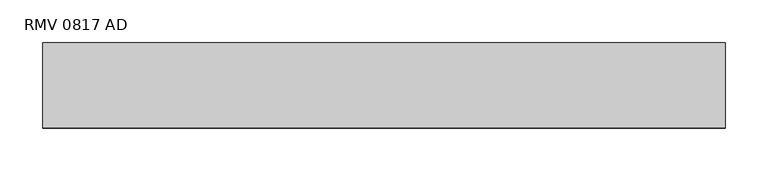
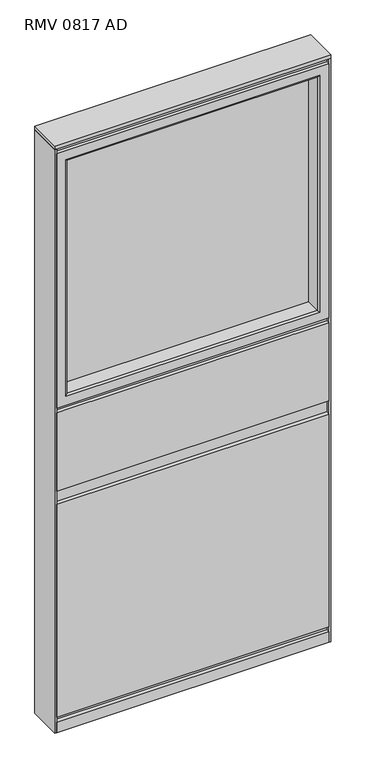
"""IFC4 building model written with IfcOpenShell, lengths in millimetres: furniture geometry, Mobiliário_MobiliáriodeEscritório_LinhaReasons_PainelMisto1800mm(Acesso02Lados)-Melamina_Marelli : RMV 0817 AD."""

from ifc_helpers import new_model, si_unit, frame, origin, origin_with_axes, place, context, project, spatial, polyline, ellipse_curve, outline, extrude, source, transform, mapped, element, save
from ifc_brep_helpers import plane_surface, cylinder_surface, advanced_brep


def rmv_0817_ad_dfffa145(model_context):
    return source(origin(), model_context, "Body", "SolidModel", [
        extrude(outline(polyline([(763.5, 52.0), (763.5, 48.0), (36.5677845, 48.0), (36.5677845, 52.0), (763.5, 52.0)])), frame((0.0, 0.0, 1026.5), z_axis=(0.0, 0.0, 1.0), x_axis=(1.0, 0.0, 0.0)), (0.0, 0.0, 1.0), 716.0),
        extrude(outline(polyline([(5.0, 11.0), (5.0, 89.0), (795.0, 89.0), (795.0, 11.0), (5.0, 11.0)])), frame((0.0, 0.0, 1774.0), z_axis=(0.0, 0.0, 1.0), x_axis=(1.0, 0.0, 0.0)), (0.0, 0.0, 1.0), 15.0),
        advanced_brep(
        [(763.5, 5.0, 1742.5), (763.5, 95.0, 1742.5), (763.5, 95.0, 1026.5), (763.5, 5.0, 1026.5), (795.0, 100.0, 1774.0), (795.0, 0.0, 1774.0), (795.0, 0.0, 995.0), (795.0, 100.0, 995.0), (36.5, 95.0, 1026.5), (36.5, 5.0, 1026.5), (5.0, 0.0, 995.0), (5.0, 100.0, 995.0), (36.5, 95.0, 1742.5), (36.5, 5.0, 1742.5), (5.0, 0.0, 1774.0), (5.0, 100.0, 1774.0), (768.5, 100.0, 1747.5), (31.5, 100.0, 1747.5), (31.5, 100.0, 1021.5), (768.5, 100.0, 1021.5), (768.5, 0.0, 1021.5), (31.5, 0.0, 1021.5), (31.5, 0.0, 1747.5), (768.5, 0.0, 1747.5)],
        [
            (0, 1),
            (1, 2),
            (2, 3),
            (3, 0),
            (4, 5),
            (5, 6),
            (6, 7),
            (7, 4),
            (2, 8),
            (8, 9),
            (9, 3),
            (6, 10),
            (10, 11),
            (11, 7),
            (8, 12),
            (12, 13),
            (13, 9),
            (10, 14),
            (14, 15),
            (15, 11),
            (15, 4),
            (16, 17),
            (17, 18),
            (18, 19),
            (19, 16),
            (12, 1),
            (0, 13),
            (5, 14),
            (20, 21),
            (21, 22),
            (22, 23),
            (23, 20),
            (1, 16, ellipse_curve(frame((768.5, 95.0, 1747.5), z_axis=(0.7071067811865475, 0.0, -0.7071067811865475), x_axis=(0.7071067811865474, 0.0, 0.7071067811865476)), 7.0710678, 5.0)),
            (19, 2, ellipse_curve(frame((768.5, 95.0, 1021.5), z_axis=(0.7071067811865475, 0.0, 0.7071067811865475), x_axis=(-0.7071067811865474, 0.0, 0.7071067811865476)), 7.0710678, 5.0)),
            (23, 0, ellipse_curve(frame((768.5, 5.0, 1747.5), z_axis=(0.7071067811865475, 0.0, -0.7071067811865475), x_axis=(0.7071067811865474, 0.0, 0.7071067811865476)), 7.0710678, 5.0)),
            (3, 20, ellipse_curve(frame((768.5, 5.0, 1021.5), z_axis=(0.7071067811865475, 0.0, 0.7071067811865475), x_axis=(-0.7071067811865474, 0.0, 0.7071067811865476)), 7.0710678, 5.0)),
            (18, 8, ellipse_curve(frame((31.5, 95.0, 1021.5), z_axis=(0.7071067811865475, 0.0, -0.7071067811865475), x_axis=(0.7071067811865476, 0.0, 0.7071067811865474)), 7.0710678, 5.0)),
            (9, 21, ellipse_curve(frame((31.5, 5.0, 1021.5), z_axis=(0.7071067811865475, 0.0, -0.7071067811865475), x_axis=(0.7071067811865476, 0.0, 0.7071067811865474)), 7.0710678, 5.0)),
            (17, 12, ellipse_curve(frame((31.5, 95.0, 1747.5), z_axis=(-0.7071067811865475, 0.0, -0.7071067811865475), x_axis=(0.7071067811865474, 0.0, -0.7071067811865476)), 7.0710678, 5.0)),
            (13, 22, ellipse_curve(frame((31.5, 5.0, 1747.5), z_axis=(-0.7071067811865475, 0.0, -0.7071067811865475), x_axis=(0.7071067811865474, 0.0, -0.7071067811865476)), 7.0710678, 5.0)),
        ],
        [
            plane_surface(frame((763.5, 95.0, 1742.5), z_axis=(-1.0, 0.0, 0.0), x_axis=(0.0, 0.0, -1.0))),
            plane_surface(frame((795.0, 0.0, 1774.0), z_axis=(1.0, 0.0, 0.0), x_axis=(0.0, 0.0, -1.0))),
            plane_surface(frame((763.5, 95.0, 1026.5), z_axis=(0.0, 0.0, 1.0), x_axis=(-1.0, 0.0, 0.0))),
            plane_surface(frame((795.0, 0.0, 995.0), z_axis=(0.0, 0.0, -1.0), x_axis=(-1.0, 0.0, 0.0))),
            plane_surface(frame((36.5, 95.0, 1026.5), z_axis=(1.0, 0.0, 0.0), x_axis=(0.0, 0.0, 1.0))),
            plane_surface(frame((5.0, 0.0, 995.0), z_axis=(-1.0, 0.0, 0.0), x_axis=(0.0, 0.0, 1.0))),
            plane_surface(frame((5.0, 100.0, 1774.0), z_axis=(0.0, 1.0, 0.0), x_axis=(1.0, 0.0, 0.0))),
            plane_surface(frame((36.5, 95.0, 1742.5), z_axis=(0.0, 0.0, -1.0), x_axis=(1.0, 0.0, 0.0))),
            plane_surface(frame((31.5, 0.0, 1747.5), z_axis=(0.0, -1.0, 0.0), x_axis=(1.0, 0.0, 0.0))),
            plane_surface(frame((5.0, 0.0, 1774.0), z_axis=(0.0, 0.0, 1.0), x_axis=(1.0, 0.0, 0.0))),
            cylinder_surface(frame((768.5, 95.0, 1774.0), z_axis=(0.0, 0.0, 1.0), x_axis=(1.0, 0.0, 0.0)), 5.0),
            cylinder_surface(frame((768.5, 5.0, 1774.0), z_axis=(0.0, 0.0, 1.0), x_axis=(1.0, 0.0, 0.0)), 5.0),
            cylinder_surface(frame((795.0, 95.0, 1021.5), z_axis=(1.0, 0.0, 0.0), x_axis=(0.0, 0.0, -1.0)), 5.0),
            cylinder_surface(frame((795.0, 5.0, 1021.5), z_axis=(1.0, 0.0, 0.0), x_axis=(0.0, 0.0, -1.0)), 5.0),
            cylinder_surface(frame((31.5, 95.0, 995.0), z_axis=(0.0, 0.0, -1.0), x_axis=(-1.0, 0.0, 0.0)), 5.0),
            cylinder_surface(frame((31.5, 5.0, 995.0), z_axis=(0.0, 0.0, -1.0), x_axis=(-1.0, 0.0, 0.0)), 5.0),
            cylinder_surface(frame((5.0, 95.0, 1747.5), z_axis=(-1.0, 0.0, 0.0), x_axis=(0.0, 0.0, 1.0)), 5.0),
            cylinder_surface(frame((5.0, 5.0, 1747.5), z_axis=(-1.0, 0.0, 0.0), x_axis=(0.0, 0.0, 1.0)), 5.0),
        ],
        [
            (0, [[1, 2, 3, 4]]),
            (1, [[5, 6, 7, 8]]),
            (2, [[-3, 9, 10, 11]]),
            (3, [[-7, 12, 13, 14]]),
            (4, [[-10, 15, 16, 17]]),
            (5, [[-13, 18, 19, 20]]),
            (6, [[-14, -20, 21, -8], [22, 23, 24, 25]]),
            (7, [[-16, 26, -1, 27]]),
            (8, [[28, -18, -12, -6], [29, 30, 31, 32]]),
            (9, [[-19, -28, -5, -21]]),
            (10, [[33, -25, 34, -2]]),
            (11, [[35, -4, 36, -32]]),
            (12, [[-34, -24, 37, -9]]),
            (13, [[-36, -11, 38, -29]]),
            (14, [[-37, -23, 39, -15]]),
            (15, [[-38, -17, 40, -30]]),
            (16, [[-39, -22, -33, -26]]),
            (17, [[-40, -27, -35, -31]]),
        ],
    ),
        extrude(outline(polyline([(0.0, 100.0), (5.0, 100.0), (5.0, 0.0), (0.0, 0.0), (0.0, 100.0)])), origin_with_axes(), (0.0, 0.0, 1.0), 1789.0),
        extrude(outline(polyline([(795.0, 100.0), (795.0, 89.0), (5.0, 89.0), (5.0, 100.0), (795.0, 100.0)])), frame((0.0, 0.0, 740.0), z_axis=(0.0, 0.0, 1.0), x_axis=(1.0, 0.0, 0.0)), (0.0, 0.0, 1.0), 240.0),
        extrude(outline(polyline([(795.0, 100.0), (795.0, 89.0), (5.0, 89.0), (5.0, 100.0), (795.0, 100.0)])), frame((0.0, 0.0, 47.0), z_axis=(0.0, 0.0, 1.0), x_axis=(1.0, 0.0, 0.0)), (0.0, 0.0, 1.0), 653.0),
        extrude(outline(polyline([(795.0, 11.0), (795.0, 0.0), (5.0, 0.0), (5.0, 11.0), (795.0, 11.0)])), frame((0.0, 0.0, 740.0), z_axis=(0.0, 0.0, 1.0), x_axis=(1.0, 0.0, 0.0)), (0.0, 0.0, 1.0), 240.0),
        extrude(outline(polyline([(795.0, 11.0), (795.0, 0.0), (5.0, 0.0), (5.0, 11.0), (795.0, 11.0)])), frame((0.0, 0.0, 47.0), z_axis=(0.0, 0.0, 1.0), x_axis=(1.0, 0.0, 0.0)), (0.0, 0.0, 1.0), 653.0),
        extrude(outline(polyline([(795.0, 100.0), (795.0, 89.0), (5.0, 89.0), (5.0, 100.0), (795.0, 100.0)])), origin_with_axes(), (0.0, 0.0, 1.0), 32.0),
        extrude(outline(polyline([(795.0, 11.0), (795.0, 0.0), (5.0, 0.0), (5.0, 11.0), (795.0, 11.0)])), origin_with_axes(), (0.0, 0.0, 1.0), 32.0),
        extrude(outline(polyline([(5.0, 11.0), (5.0, 89.0), (795.0, 89.0), (795.0, 11.0), (5.0, 11.0)])), origin_with_axes(), (0.0, 0.0, 1.0), 995.0),
        extrude(outline(polyline([(800.0, 100.0), (800.0, 0.0), (0.0, 0.0), (0.0, 100.0), (800.0, 100.0)])), frame((0.0, 0.0, 1789.0), z_axis=(0.0, 0.0, 1.0), x_axis=(1.0, 0.0, 0.0)), (0.0, 0.0, 1.0), 11.0),
        extrude(outline(polyline([(795.0, 100.0), (800.0, 100.0), (800.0, 0.0), (795.0, 0.0), (795.0, 100.0)])), origin_with_axes(), (0.0, 0.0, 1.0), 1789.0),
    ])


if __name__ == "__main__":
    model = new_model("IFC4")
    model_context = context("Model", 3, world=origin())
    ifc_project = project(units=[si_unit("LENGTHUNIT", "METRE", prefix="MILLI")], contexts=[model_context])
    site = spatial("IfcSite", under=ifc_project)
    building = spatial("IfcBuilding", under=site)
    placement = place(None, origin())
    rmv_0817_ad_shape = rmv_0817_ad_dfffa145(model_context)
    element("IfcFurniture", 1, ObjectType="Mobiliário_MobiliáriodeEscritório_LinhaReasons_PainelMisto1800mm(Acesso02Lados)-Melamina_Marelli : RMV 0817 AD", at=placement, inside=building, context=model_context, shape_type="MappedRepresentation", body=[
        mapped(rmv_0817_ad_shape, transform((0.0, 0.0, 0.0), x_axis=(1.0, 0.0, 0.0), y_axis=(0.0, 1.0, 0.0), z_axis=(0.0, 0.0, 1.0))),
    ])
    save(model, "model.ifc")
